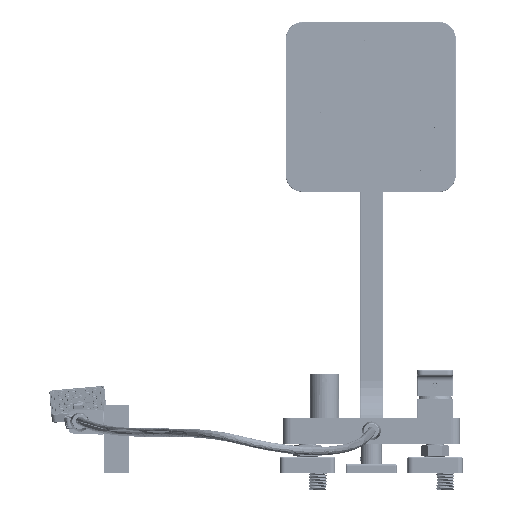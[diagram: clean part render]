
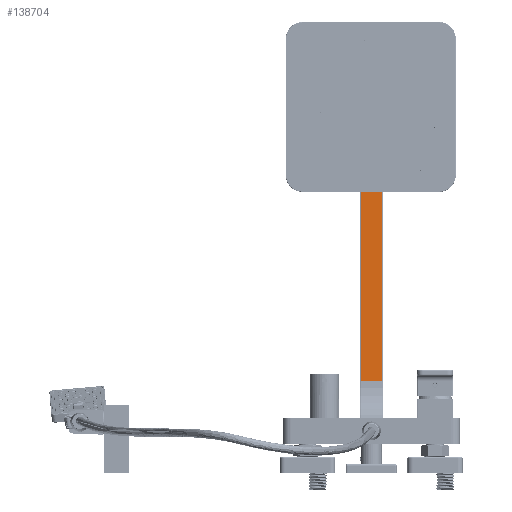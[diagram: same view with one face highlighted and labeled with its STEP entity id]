
A CAD part, front view. The second image highlights one B-rep face of the part: STEP entity #138704.
In plain terms, the highlighted planar face has unit normal (0, -1, 0.017).
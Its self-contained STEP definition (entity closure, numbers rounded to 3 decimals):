
#39933 = CARTESIAN_POINT ( 'NONE',  ( 12.5, 1307.292, 59.106 ) ) ;
#45074 = CIRCLE ( 'NONE', #341982, 10. ) ;
#60309 = DIRECTION ( 'NONE',  ( -1., 0., 0. ) ) ;
#60547 = CARTESIAN_POINT ( 'NONE',  ( -12.5, 1313.301, 415.118 ) ) ;
#85463 = AXIS2_PLACEMENT_3D ( 'NONE', #115729, #89955, #206798 ) ;
#88011 = FACE_OUTER_BOUND ( 'NONE', #239397, .T. ) ;
#89955 = DIRECTION ( 'NONE',  ( 0., -1., 0.017 ) ) ;
#92563 = CARTESIAN_POINT ( 'NONE',  ( -12.5, 1307.292, 59.106 ) ) ;
#96671 = ORIENTED_EDGE ( 'NONE', *, *, #377543, .F. ) ;
#99299 = LINE ( 'NONE', #39933, #208665 ) ;
#109250 = CARTESIAN_POINT ( 'NONE',  ( 0., 1312.879, 390.122 ) ) ;
#109667 = EDGE_CURVE ( 'NONE', #311694, #287479, #205212, .T. ) ;
#114102 = LINE ( 'NONE', #199304, #292283 ) ;
#115729 = CARTESIAN_POINT ( 'NONE',  ( 13.5, 1313.301, 415.118 ) ) ;
#121255 = VERTEX_POINT ( 'NONE', #164394 ) ;
#125210 = DIRECTION ( 'NONE',  ( 0., 1., -0.017 ) ) ;
#129223 = VERTEX_POINT ( 'NONE', #171990 ) ;
#133009 = DIRECTION ( 'NONE',  ( 0., -0.017, -1. ) ) ;
#138704 = ADVANCED_FACE ( 'NONE', ( #359152, #88011 ), #325497, .T. ) ;
#160673 = DIRECTION ( 'NONE',  ( 0., 0.017, 1. ) ) ;
#164394 = CARTESIAN_POINT ( 'NONE',  ( -12.5, 1307.292, 59.106 ) ) ;
#167339 = AXIS2_PLACEMENT_3D ( 'NONE', #257479, #220055, #340694 ) ;
#171990 = CARTESIAN_POINT ( 'NONE',  ( 12.5, 1313.301, 415.118 ) ) ;
#173644 = VECTOR ( 'NONE', #60309, 1000. ) ;
#184889 = CARTESIAN_POINT ( 'NONE',  ( 12.5, 1307.292, 59.106 ) ) ;
#196367 = ORIENTED_EDGE ( 'NONE', *, *, #386771, .T. ) ;
#199304 = CARTESIAN_POINT ( 'NONE',  ( 12.5, 1313.301, 415.118 ) ) ;
#199528 = EDGE_CURVE ( 'NONE', #129223, #292341, #114102, .T. ) ;
#203680 = VERTEX_POINT ( 'NONE', #385754 ) ;
#205212 = CIRCLE ( 'NONE', #167339, 10. ) ;
#206798 = DIRECTION ( 'NONE',  ( 1., 0., 0. ) ) ;
#208421 = CARTESIAN_POINT ( 'NONE',  ( 0., 1312.542, 370.125 ) ) ;
#208665 = VECTOR ( 'NONE', #160673, 1000. ) ;
#209052 = VECTOR ( 'NONE', #213294, 1000. ) ;
#213294 = DIRECTION ( 'NONE',  ( 0., 0.017, 1. ) ) ;
#220055 = DIRECTION ( 'NONE',  ( 0., 1., -0.017 ) ) ;
#225624 = EDGE_CURVE ( 'NONE', #121255, #292341, #343236, .T. ) ;
#228945 = ORIENTED_EDGE ( 'NONE', *, *, #199528, .T. ) ;
#239397 = EDGE_LOOP ( 'NONE', ( #273373, #96671, #362210, #228945 ) ) ;
#257479 = CARTESIAN_POINT ( 'NONE',  ( 0., 1312.71, 380.123 ) ) ;
#259018 = EDGE_CURVE ( 'NONE', #203680, #129223, #99299, .T. ) ;
#269240 = ORIENTED_EDGE ( 'NONE', *, *, #109667, .T. ) ;
#273373 = ORIENTED_EDGE ( 'NONE', *, *, #225624, .F. ) ;
#287479 = VERTEX_POINT ( 'NONE', #208421 ) ;
#290790 = EDGE_LOOP ( 'NONE', ( #196367, #269240 ) ) ;
#292283 = VECTOR ( 'NONE', #296129, 1000. ) ;
#292341 = VERTEX_POINT ( 'NONE', #60547 ) ;
#296129 = DIRECTION ( 'NONE',  ( -1., 0., 0. ) ) ;
#311694 = VERTEX_POINT ( 'NONE', #109250 ) ;
#325497 = PLANE ( 'NONE',  #85463 ) ;
#329420 = LINE ( 'NONE', #184889, #173644 ) ;
#338870 = CARTESIAN_POINT ( 'NONE',  ( 0., 1312.71, 380.123 ) ) ;
#340694 = DIRECTION ( 'NONE',  ( 0., 0.017, 1. ) ) ;
#341982 = AXIS2_PLACEMENT_3D ( 'NONE', #338870, #125210, #133009 ) ;
#343236 = LINE ( 'NONE', #92563, #209052 ) ;
#359152 = FACE_BOUND ( 'NONE', #290790, .T. ) ;
#362210 = ORIENTED_EDGE ( 'NONE', *, *, #259018, .T. ) ;
#377543 = EDGE_CURVE ( 'NONE', #203680, #121255, #329420, .T. ) ;
#385754 = CARTESIAN_POINT ( 'NONE',  ( 12.5, 1307.292, 59.106 ) ) ;
#386771 = EDGE_CURVE ( 'NONE', #287479, #311694, #45074, .T. ) ;
